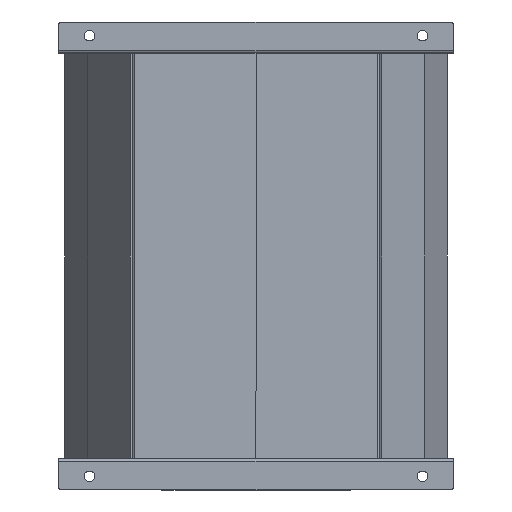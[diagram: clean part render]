
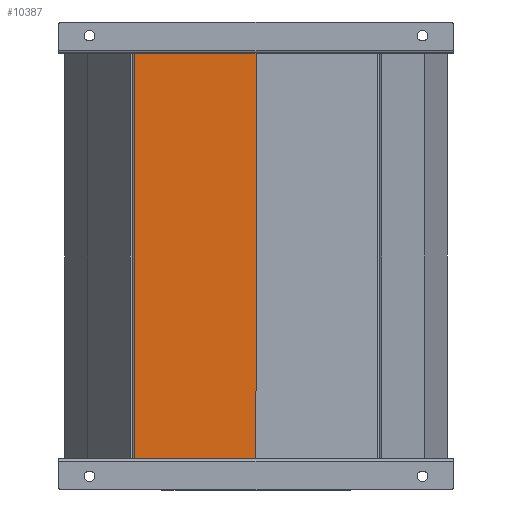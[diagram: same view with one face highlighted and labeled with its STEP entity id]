
A CAD part, front view. The second image highlights one B-rep face of the part: STEP entity #10387.
In plain terms, the highlighted planar face has unit normal (0, -1, 0).
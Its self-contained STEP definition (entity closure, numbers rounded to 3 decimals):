
#963 = CARTESIAN_POINT ( 'NONE',  ( 326.8, -177.9, 50.1 ) ) ;
#1046 = CARTESIAN_POINT ( 'NONE',  ( 326.8, -177.9, 56.1 ) ) ;
#1102 = CARTESIAN_POINT ( 'NONE',  ( 326.8, -177.9, 0.1 ) ) ;
#1103 = DIRECTION ( 'NONE',  ( 0., 0., -1. ) ) ;
#1104 = VECTOR ( 'NONE', #1103, 1000. ) ;
#1105 = CARTESIAN_POINT ( 'NONE',  ( 326.8, -177.9, 195. ) ) ;
#1106 = LINE ( 'NONE', #1105, #1104 ) ;
#1241 = CARTESIAN_POINT ( 'NONE',  ( 326.8, -177.9, 195. ) ) ;
#1525 = CARTESIAN_POINT ( 'NONE',  ( -326.8, -177.9, 0.1 ) ) ;
#1530 = DIRECTION ( 'NONE',  ( 0., 0., -1. ) ) ;
#1531 = VECTOR ( 'NONE', #1530, 1000. ) ;
#1532 = CARTESIAN_POINT ( 'NONE',  ( -326.8, -177.9, 195. ) ) ;
#1533 = LINE ( 'NONE', #1532, #1531 ) ;
#1583 = CARTESIAN_POINT ( 'NONE',  ( -326.8, -177.9, 50.1 ) ) ;
#1595 = DIRECTION ( 'NONE',  ( 0., 0., -1. ) ) ;
#1596 = VECTOR ( 'NONE', #1595, 1000. ) ;
#1597 = CARTESIAN_POINT ( 'NONE',  ( 326.8, -177.9, 195. ) ) ;
#1598 = LINE ( 'NONE', #1597, #1596 ) ;
#1729 = CARTESIAN_POINT ( 'NONE',  ( -326.8, -177.9, 56.1 ) ) ;
#1850 = CARTESIAN_POINT ( 'NONE',  ( -326.8, -177.9, 195. ) ) ;
#1851 = DIRECTION ( 'NONE',  ( 0., 0., -1. ) ) ;
#1852 = VECTOR ( 'NONE', #1851, 1000. ) ;
#1853 = CARTESIAN_POINT ( 'NONE',  ( -326.8, -177.9, 195. ) ) ;
#1854 = LINE ( 'NONE', #1853, #1852 ) ;
#2008 = CARTESIAN_POINT ( 'NONE',  ( -329.8, -177.9, 56.1 ) ) ;
#2009 = DIRECTION ( 'NONE',  ( -1., 0., 0. ) ) ;
#2010 = VECTOR ( 'NONE', #2009, 1000. ) ;
#2011 = CARTESIAN_POINT ( 'NONE',  ( -329.8, -177.9, 56.1 ) ) ;
#2012 = DIRECTION ( 'NONE',  ( 0., 0., 1. ) ) ;
#2013 = DIRECTION ( 'NONE',  ( 0., 1., 0. ) ) ;
#2014 = CARTESIAN_POINT ( 'NONE',  ( 326.8, -177.9, 195. ) ) ;
#2015 = CARTESIAN_POINT ( 'NONE',  ( 329.8, -177.9, 50.1 ) ) ;
#2016 = LINE ( 'NONE', #2015, #2126 ) ;
#2017 = DIRECTION ( 'NONE',  ( -1., 0., 0. ) ) ;
#2018 = VECTOR ( 'NONE', #2017, 1000. ) ;
#2019 = CARTESIAN_POINT ( 'NONE',  ( 326.8, -177.9, 50.1 ) ) ;
#2020 = LINE ( 'NONE', #2019, #2018 ) ;
#2096 = AXIS2_PLACEMENT_3D ( 'NONE', #2014, #2013, #2012 ) ;
#2097 = LINE ( 'NONE', #2011, #2010 ) ;
#2098 = PLANE ( 'NONE',  #2096 ) ;
#2099 = FACE_OUTER_BOUND ( 'NONE', #10391, .T. ) ;
#2100 = DIRECTION ( 'NONE',  ( -1., 0., 0. ) ) ;
#2101 = VECTOR ( 'NONE', #2100, 1000. ) ;
#2102 = CARTESIAN_POINT ( 'NONE',  ( 326.8, -177.9, 195. ) ) ;
#2103 = LINE ( 'NONE', #2102, #2101 ) ;
#2110 = CARTESIAN_POINT ( 'NONE',  ( 329.8, -177.9, 50.1 ) ) ;
#2111 = DIRECTION ( 'NONE',  ( -1., 0., 0. ) ) ;
#2112 = VECTOR ( 'NONE', #2111, 1000. ) ;
#2113 = CARTESIAN_POINT ( 'NONE',  ( 326.8, -177.9, 0.1 ) ) ;
#2114 = LINE ( 'NONE', #2113, #2112 ) ;
#2115 = DIRECTION ( 'NONE',  ( 1., 0., 0. ) ) ;
#2116 = VECTOR ( 'NONE', #2115, 1000. ) ;
#2117 = CARTESIAN_POINT ( 'NONE',  ( -326.8, -177.9, 50.1 ) ) ;
#2118 = LINE ( 'NONE', #2117, #2116 ) ;
#2119 = CARTESIAN_POINT ( 'NONE',  ( -329.8, -177.9, 50.1 ) ) ;
#2120 = DIRECTION ( 'NONE',  ( 0., 0., -1. ) ) ;
#2121 = VECTOR ( 'NONE', #2120, 1000. ) ;
#2122 = CARTESIAN_POINT ( 'NONE',  ( -329.8, -177.9, 50.1 ) ) ;
#2123 = LINE ( 'NONE', #2122, #2121 ) ;
#2124 = CARTESIAN_POINT ( 'NONE',  ( 329.8, -177.9, 56.1 ) ) ;
#2125 = DIRECTION ( 'NONE',  ( 0., 0., -1. ) ) ;
#2126 = VECTOR ( 'NONE', #2125, 1000. ) ;
#2916 = DIRECTION ( 'NONE',  ( 1., 0., 0. ) ) ;
#2917 = VECTOR ( 'NONE', #2916, 1000. ) ;
#2918 = CARTESIAN_POINT ( 'NONE',  ( 329.8, -177.9, 56.1 ) ) ;
#2919 = LINE ( 'NONE', #2918, #2917 ) ;
#8117 = VERTEX_POINT ( 'NONE', #963 ) ;
#8365 = EDGE_CURVE ( 'NONE', #8117, #8367, #1106, .T. ) ;
#8367 = VERTEX_POINT ( 'NONE', #1102 ) ;
#8385 = VERTEX_POINT ( 'NONE', #1046 ) ;
#8564 = VERTEX_POINT ( 'NONE', #1241 ) ;
#8630 = EDGE_CURVE ( 'NONE', #8564, #8385, #1598, .T. ) ;
#8642 = VERTEX_POINT ( 'NONE', #1583 ) ;
#8663 = EDGE_CURVE ( 'NONE', #8642, #8669, #1533, .T. ) ;
#8669 = VERTEX_POINT ( 'NONE', #1525 ) ;
#8865 = VERTEX_POINT ( 'NONE', #1729 ) ;
#8868 = EDGE_CURVE ( 'NONE', #8869, #8865, #1854, .T. ) ;
#8869 = VERTEX_POINT ( 'NONE', #1850 ) ;
#10347 = EDGE_CURVE ( 'NONE', #10369, #8117, #2020, .T. ) ;
#10348 = ORIENTED_EDGE ( 'NONE', *, *, #10349, .F. ) ;
#10349 = EDGE_CURVE ( 'NONE', #10350, #10369, #2016, .T. ) ;
#10350 = VERTEX_POINT ( 'NONE', #2124 ) ;
#10352 = ORIENTED_EDGE ( 'NONE', *, *, #10934, .F. ) ;
#10354 = EDGE_CURVE ( 'NONE', #10397, #10357, #2123, .T. ) ;
#10357 = VERTEX_POINT ( 'NONE', #2119 ) ;
#10358 = ORIENTED_EDGE ( 'NONE', *, *, #10359, .T. ) ;
#10359 = EDGE_CURVE ( 'NONE', #10357, #8642, #2118, .T. ) ;
#10360 = ORIENTED_EDGE ( 'NONE', *, *, #8663, .T. ) ;
#10361 = ORIENTED_EDGE ( 'NONE', *, *, #10362, .F. ) ;
#10362 = EDGE_CURVE ( 'NONE', #8367, #8669, #2114, .T. ) ;
#10365 = ORIENTED_EDGE ( 'NONE', *, *, #8365, .F. ) ;
#10367 = ORIENTED_EDGE ( 'NONE', *, *, #10347, .F. ) ;
#10369 = VERTEX_POINT ( 'NONE', #2110 ) ;
#10382 = EDGE_CURVE ( 'NONE', #8564, #8869, #2103, .T. ) ;
#10387 = ADVANCED_FACE ( 'NONE', ( #2099 ), #2098, .F. ) ;
#10391 = EDGE_LOOP ( 'NONE', ( #10393, #10395, #10398, #10358, #10360, #10361, #10365, #10367, #10348, #10352, #10695, #10872 ) ) ;
#10393 = ORIENTED_EDGE ( 'NONE', *, *, #8868, .T. ) ;
#10395 = ORIENTED_EDGE ( 'NONE', *, *, #10396, .T. ) ;
#10396 = EDGE_CURVE ( 'NONE', #8865, #10397, #2097, .T. ) ;
#10397 = VERTEX_POINT ( 'NONE', #2008 ) ;
#10398 = ORIENTED_EDGE ( 'NONE', *, *, #10354, .T. ) ;
#10695 = ORIENTED_EDGE ( 'NONE', *, *, #8630, .F. ) ;
#10872 = ORIENTED_EDGE ( 'NONE', *, *, #10382, .T. ) ;
#10934 = EDGE_CURVE ( 'NONE', #8385, #10350, #2919, .T. ) ;
